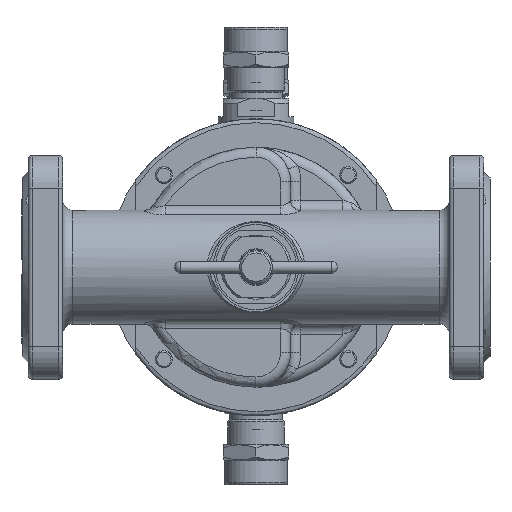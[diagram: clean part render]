
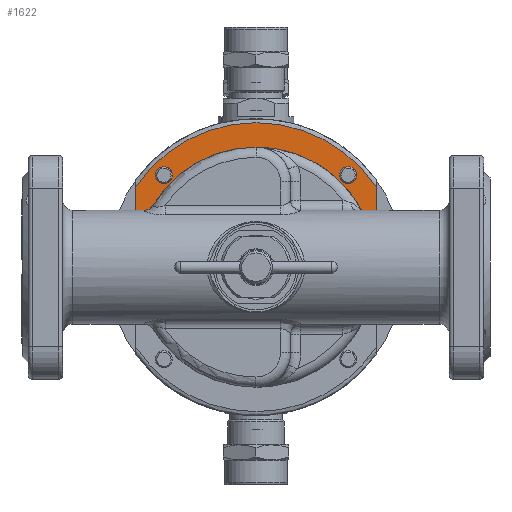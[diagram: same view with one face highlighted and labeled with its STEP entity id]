
A CAD part, front view. The second image highlights one B-rep face of the part: STEP entity #1622.
In plain terms, the highlighted planar face has unit normal (0, -1, 0).
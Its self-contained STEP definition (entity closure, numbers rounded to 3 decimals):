
#1622=ADVANCED_FACE('',(#17902,#17904,#17906),#17908,.F.);
#17902=FACE_BOUND('',#17903,.T.);
#17903=EDGE_LOOP('',(#31525));
#17904=FACE_BOUND('',#17905,.T.);
#17905=EDGE_LOOP('',(#31526));
#17906=FACE_OUTER_BOUND('',#17907,.T.);
#17907=EDGE_LOOP('',(#31527,#31528,#31529,#31530));
#17908=PLANE('',#17909);
#17909=AXIS2_PLACEMENT_3D('',#17910,#17911,#17912);
#17910=CARTESIAN_POINT('',(0.,39.5,0.));
#17911=DIRECTION('',(0.,1.,0.));
#17912=DIRECTION('',(-1.,0.,0.));
#31525=ORIENTED_EDGE('',*,*,#39893,.T.);
#31526=ORIENTED_EDGE('',*,*,#39894,.T.);
#31527=ORIENTED_EDGE('',*,*,#39892,.F.);
#31528=ORIENTED_EDGE('',*,*,#39841,.F.);
#31529=ORIENTED_EDGE('',*,*,#39895,.F.);
#31530=ORIENTED_EDGE('',*,*,#39833,.F.);
#39833=EDGE_CURVE('',#47849,#47851,#47852,.T.);
#39841=EDGE_CURVE('',#47863,#47865,#47866,.T.);
#39892=EDGE_CURVE('',#47865,#47849,#47952,.T.);
#39893=EDGE_CURVE('',#47953,#47953,#47954,.T.);
#39894=EDGE_CURVE('',#47955,#47955,#47956,.T.);
#39895=EDGE_CURVE('',#47851,#47863,#47957,.T.);
#47849=VERTEX_POINT('',#71867);
#47851=VERTEX_POINT('',#71925);
#47852=LINE('',#71926,#71927);
#47863=VERTEX_POINT('',#72060);
#47865=VERTEX_POINT('',#72064);
#47866=LINE('',#72065,#72066);
#47952=CIRCLE('',#72980,71.);
#47953=VERTEX_POINT('',#72984);
#47954=CIRCLE('',#72985,4.188);
#47955=VERTEX_POINT('',#72989);
#47956=CIRCLE('',#72990,4.188);
#47957=CIRCLE('',#72994,59.);
#71867=CARTESIAN_POINT('',(59.,39.5,39.497));
#71925=CARTESIAN_POINT('',(59.,39.5,0.));
#71926=CARTESIAN_POINT('',(59.,39.5,39.497));
#71927=VECTOR('',#71928,1.);
#71928=DIRECTION('',(0.,0.,-1.));
#72060=CARTESIAN_POINT('',(-59.,39.5,0.));
#72064=CARTESIAN_POINT('',(-59.,39.5,39.497));
#72065=CARTESIAN_POINT('',(-59.,39.5,0.));
#72066=VECTOR('',#72067,1.);
#72067=DIRECTION('',(0.,0.,1.));
#72980=AXIS2_PLACEMENT_3D('',#72981,#72982,#72983);
#72981=CARTESIAN_POINT('',(0.,39.5,0.));
#72982=DIRECTION('',(0.,1.,0.));
#72983=DIRECTION('',(-0.831,0.,0.556));
#72984=CARTESIAN_POINT('',(-49.443,39.5,45.255));
#72985=AXIS2_PLACEMENT_3D('',#72986,#72987,#72988);
#72986=CARTESIAN_POINT('',(-45.255,39.5,45.255));
#72987=DIRECTION('',(0.,1.,0.));
#72988=DIRECTION('',(-1.,0.,0.));
#72989=CARTESIAN_POINT('',(41.067,39.5,45.255));
#72990=AXIS2_PLACEMENT_3D('',#72991,#72992,#72993);
#72991=CARTESIAN_POINT('',(45.255,39.5,45.255));
#72992=DIRECTION('',(0.,1.,0.));
#72993=DIRECTION('',(-1.,0.,0.));
#72994=AXIS2_PLACEMENT_3D('',#72995,#72996,#72997);
#72995=CARTESIAN_POINT('',(0.,39.5,0.));
#72996=DIRECTION('',(0.,-1.,0.));
#72997=DIRECTION('',(1.,0.,0.));
